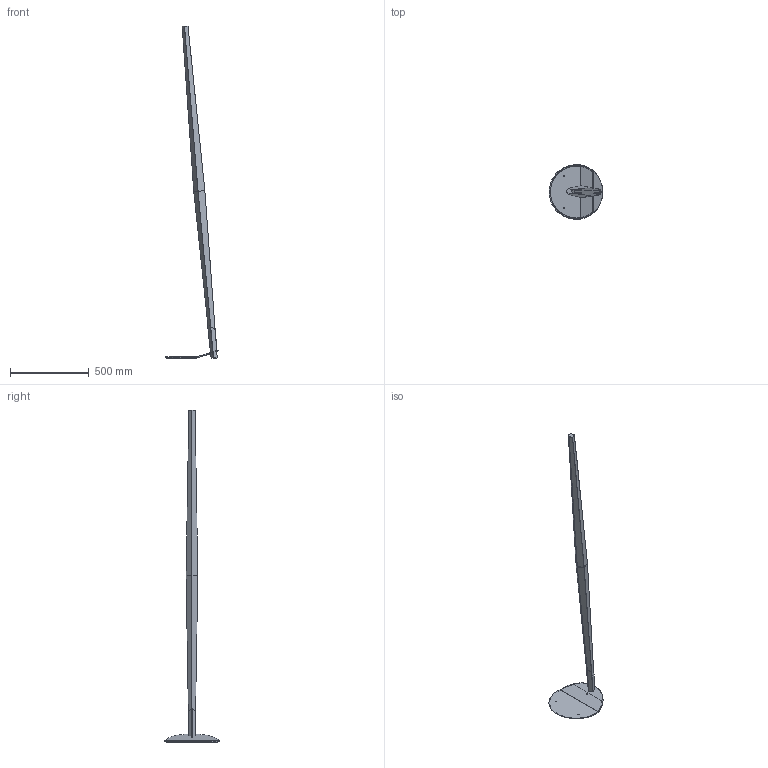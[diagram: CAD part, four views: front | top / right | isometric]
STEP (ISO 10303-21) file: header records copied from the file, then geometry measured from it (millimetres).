
FILE_DESCRIPTION(/* description */ (''),/* implementation_level */ '2;1');
FILE_NAME(/* name */ 'T020.210',/* time_stamp */ '2024-09-02T17:29:38+02:00',/* author */ (''),/* organization */ (''),/* preprocessor_version */ 'ST-DEVELOPER v16.5',/* originating_system */ '',/* authorisation */ '');
FILE_SCHEMA (('AUTOMOTIVE_DESIGN'));
Length unit declared in the file: millimetre
Products named in the file (1): Document
Bounding box: 340.47 x 347 x 2106.93 mm (x, y, z)
Volume: 1298056.4 mm3; surface area: 1498970.5 mm2
Topology: 17 solids, 17 shells, 499 faces, 1237 edges, 768 vertices
Faces by surface type: plane 252, bspline 247
Entity records: 18376 total; most frequent: CARTESIAN_POINT 10650, ORIENTED_EDGE 2462, EDGE_CURVE 1231, B_SPLINE_CURVE_WITH_KNOTS 815, VERTEX_POINT 768, EDGE_LOOP 543, ADVANCED_FACE 499, FACE_OUTER_BOUND 499
